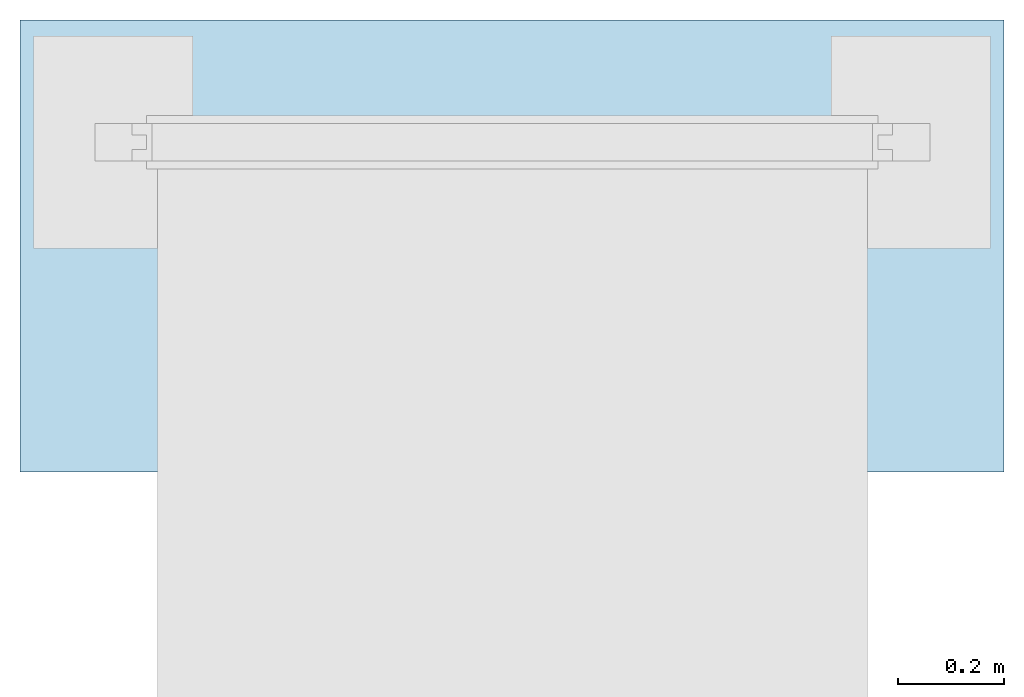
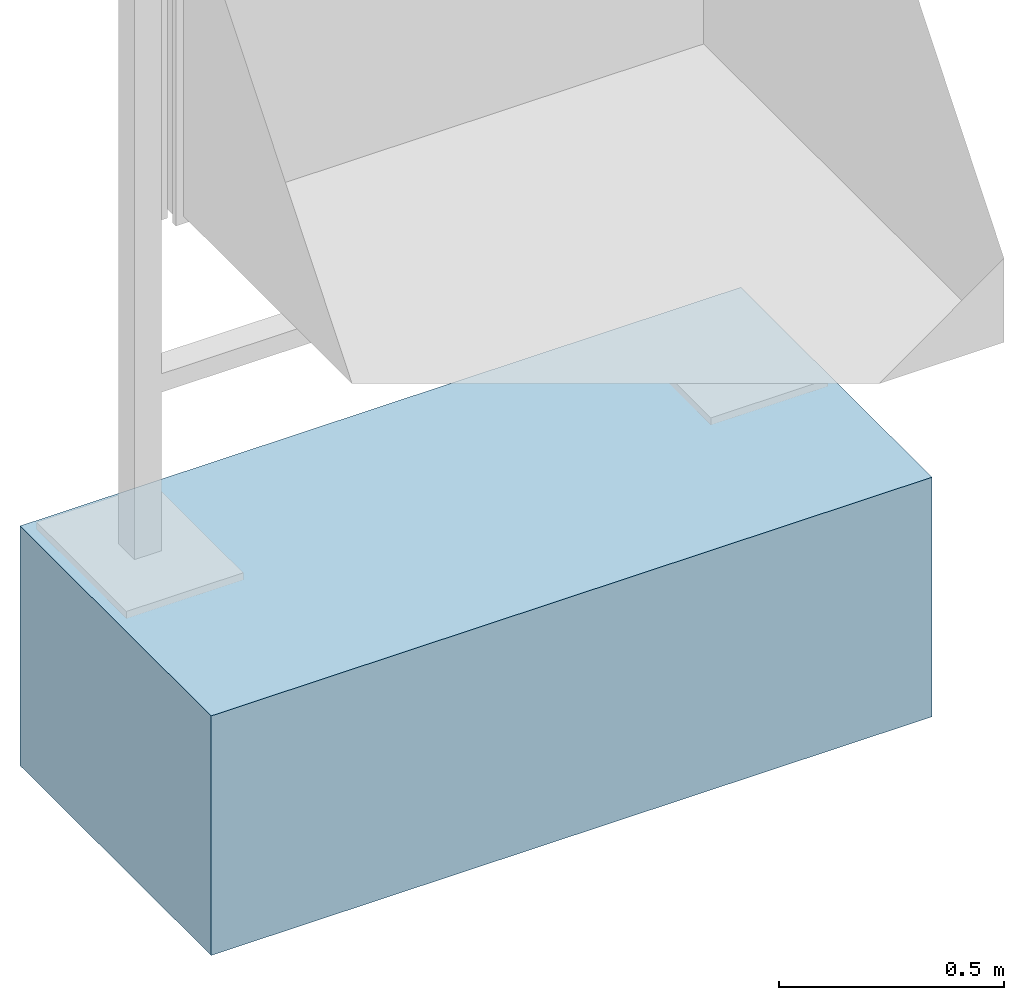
# One storey, incomplete: 1 slab.
"""IFC4 building model written with IfcOpenShell, lengths in metres."""

from ifc_helpers import new_model, entity, si_unit, converted_unit, direction, frame, frame_2d, origin, origin_2d_with_axis, place, context, subcontext, project, spatial, rectangle, extrude, material, type_object, element, save


model = new_model("IFC4")

# Units and contexts
model_context = context("Model", 3, precision=1e-05, world=origin(), true_north=direction((6.123031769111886e-17, 1.0)))
body_context = subcontext(model_context, "Body", "Model", "MODEL_VIEW")
ifc_project = project(units=[si_unit("LENGTHUNIT", "METRE"), converted_unit("PLANEANGLEUNIT", "DEGREE", entity("IfcPlaneAngleMeasure", 0.017453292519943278), si_unit("PLANEANGLEUNIT", "RADIAN"), dimensions=[0, 0, 0, 0, 0, 0, 0]), si_unit("AREAUNIT", "SQUARE_METRE")], contexts=[model_context])

# Site, building, storey
site_placement = place(None, origin())
site = spatial("IfcSite", under=ifc_project, at=site_placement, Name="Default", CompositionType="ELEMENT")
building_placement = place(site_placement, origin())
building = spatial("IfcBuilding", under=site, at=building_placement, CompositionType="ELEMENT")
storey_placement = place(building_placement, origin())
storey = spatial("IfcBuildingStorey", under=building, at=storey_placement, Name="Ebene 0", CompositionType="ELEMENT", Elevation=0.0)

# Slab
ifc_material = material(Name="DB_Magerbeton", Category="DB_Beton")
slab_type = type_object("IfcSlabType", Name="DB_Vitrine_Fundament_einfeldrig_Windlastzone_1_2:DB_Vitrine_Fundament_einfeldrig_Windlastzone_1_2", PredefinedType="BASESLAB", material=ifc_material)
slab_placement = place(storey_placement, origin())
element("IfcSlab", 1, at=slab_placement, inside=storey, type_object=slab_type, Name="DB_Vitrine_Fundament_einfeldrig_Windlastzone_1_2:DB_Vitrine_Fundament_einfeldrig_Windlastzone_1_2", ObjectType="DB_Vitrine_Fundament_einfeldrig_Windlastzone_1_2:DB_Vitrine_Fundament_einfeldrig_Windlastzone_1_2", PredefinedType="BASESLAB", context=body_context, shape_type="SweptSolid", body=[
    extrude(rectangle(XDim=0.8500000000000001, YDim=1.85, at=frame_2d((5.551115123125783e-17, 5.551115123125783e-17), x_axis=(1.0, 0.0))), frame((0.7493742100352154, -0.19499999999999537, 0.0), z_axis=(0.0, 0.0, 1.0), x_axis=(0.0, -1.0, 0.0)), (0.0, 0.0, 1.0), 0.04999999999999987),
    extrude(rectangle(XDim=1.85, YDim=0.8500000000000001, at=origin_2d_with_axis()), frame((0.7493742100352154, -0.19499999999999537, 0.04999999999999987), z_axis=(0.0, 0.0, 1.0), x_axis=(-1.0, 0.0, 0.0)), (0.0, 0.0, 1.0), 0.5999999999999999),
])

save(model, "model.ifc")
